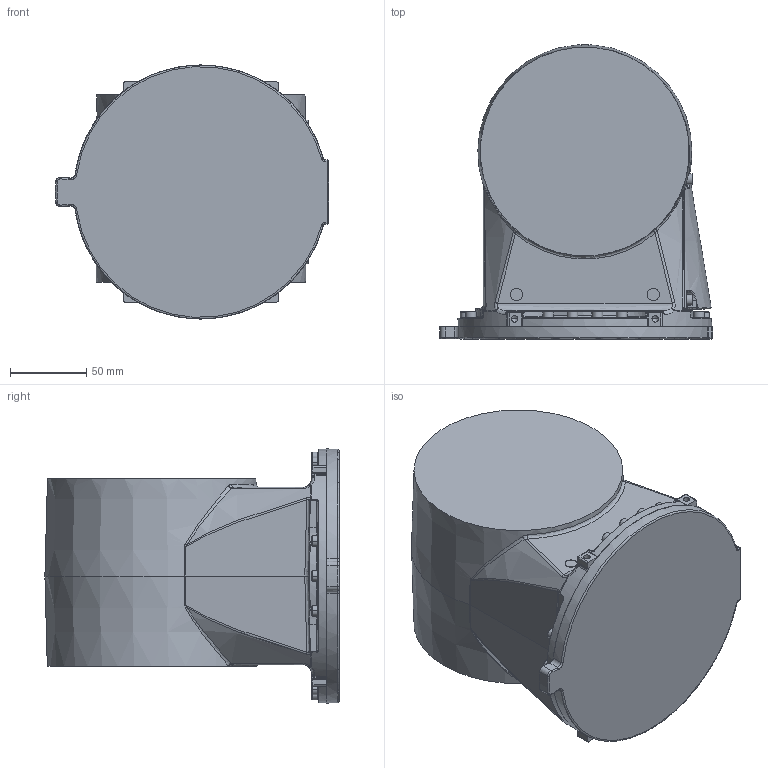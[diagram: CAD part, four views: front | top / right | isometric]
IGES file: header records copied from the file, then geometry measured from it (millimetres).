
Start section:  PTC IGES file: s-axis_view_yr-n1-06vx4-c00.igs
Global section: file name: s-axis_view_yr-n1-06vx4-c00.igs; native system: Creo Parametric by PTC Inc.; preprocessor: 2021072; author: iino20; organization: Unknown; date: 20250827.163359; units: millimetre
Bounding box: 178.61 x 192.4 x 166.28 mm (x, y, z)
Volume: 2964637.6 mm3; surface area: 135603.9 mm2
Topology: 1 solids, 1 shells, 731 faces, 1716 edges, 1038 vertices
Faces by surface type: bspline 422, revolution 306, extrusion 3
